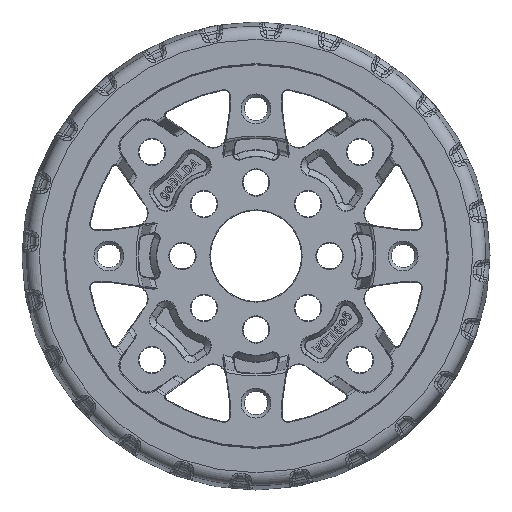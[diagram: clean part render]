
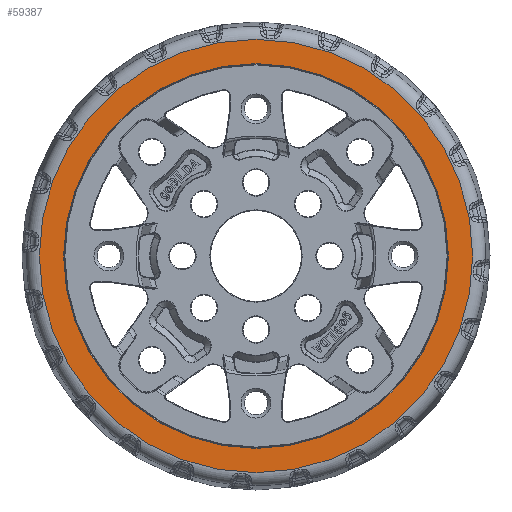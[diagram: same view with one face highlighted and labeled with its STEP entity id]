
A CAD part, front view. The second image highlights one B-rep face of the part: STEP entity #59387.
In plain terms, the highlighted planar face has unit normal (0, -1, 0).
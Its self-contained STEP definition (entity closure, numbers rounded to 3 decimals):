
#984=FACE_BOUND('',#13081,.T.);
#1406=PLANE('',#64884);
#9087=FACE_OUTER_BOUND('',#13080,.T.);
#13080=EDGE_LOOP('',(#47616));
#13081=EDGE_LOOP('',(#47617));
#17041=CIRCLE('',#64878,29.6);
#17046=CIRCLE('',#64885,33.336);
#24773=VERTEX_POINT('',#125514);
#24777=VERTEX_POINT('',#125526);
#32574=EDGE_CURVE('',#24773,#24773,#17041,.T.);
#32580=EDGE_CURVE('',#24777,#24777,#17046,.T.);
#47616=ORIENTED_EDGE('',*,*,#32580,.F.);
#47617=ORIENTED_EDGE('',*,*,#32574,.F.);
#59387=ADVANCED_FACE('',(#9087,#984),#1406,.T.);
#64878=AXIS2_PLACEMENT_3D('',#125515,#76945,#76946);
#64884=AXIS2_PLACEMENT_3D('',#125525,#76958,#76959);
#64885=AXIS2_PLACEMENT_3D('',#125527,#76960,#76961);
#76945=DIRECTION('center_axis',(0.,-1.,0.));
#76946=DIRECTION('ref_axis',(0.,0.,
-1.));
#76958=DIRECTION('center_axis',(0.,-1.,0.));
#76959=DIRECTION('ref_axis',(0.,0.,-1.));
#76960=DIRECTION('center_axis',(0.,1.,0.));
#76961=DIRECTION('ref_axis',(1.,0.,0.));
#125514=CARTESIAN_POINT('',(0.,-12.,-29.6));
#125515=CARTESIAN_POINT('Origin',(0.,-12.,0.));
#125525=CARTESIAN_POINT('Origin',(0.,-12.,33.336));
#125526=CARTESIAN_POINT('',(0.,-12.,-33.336));
#125527=CARTESIAN_POINT('Origin',(0.,-12.,0.));
